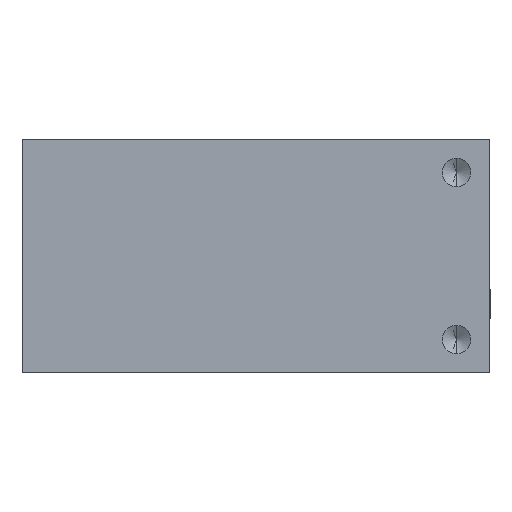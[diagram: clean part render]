
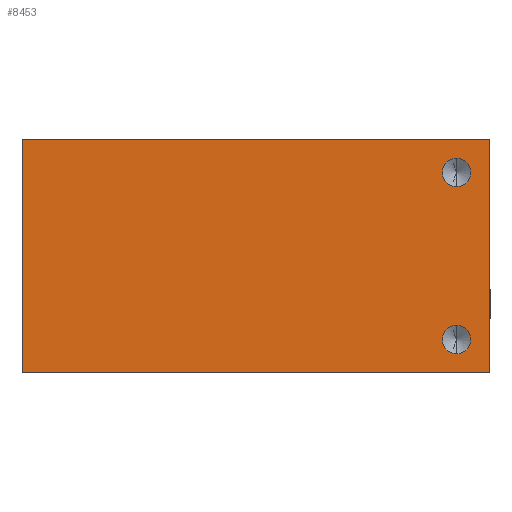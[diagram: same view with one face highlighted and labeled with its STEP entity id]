
A CAD part, front view. The second image highlights one B-rep face of the part: STEP entity #8453.
In plain terms, the highlighted planar face has unit normal (0, -1, 0).
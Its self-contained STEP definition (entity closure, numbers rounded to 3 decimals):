
#144 = CARTESIAN_POINT ( 'NONE',  ( 35., -65.5, 30.6 ) ) ;
#243 = VECTOR ( 'NONE', #16073, 1000. ) ;
#429 = LINE ( 'NONE', #13004, #11290 ) ;
#499 = VECTOR ( 'NONE', #23361, 1000. ) ;
#691 = EDGE_LOOP ( 'NONE', ( #8191, #28316 ) ) ;
#842 = CIRCLE ( 'NONE', #18498, 3.4 ) ;
#1506 = CARTESIAN_POINT ( 'NONE',  ( -69., -65.5, -14. ) ) ;
#1678 = CARTESIAN_POINT ( 'NONE',  ( 43., -65.5, 42. ) ) ;
#3309 = AXIS2_PLACEMENT_3D ( 'NONE', #4172, #14550, #14219 ) ;
#3394 = DIRECTION ( 'NONE',  ( 0., 0., 1. ) ) ;
#3615 = DIRECTION ( 'NONE',  ( 0., 0., -1. ) ) ;
#4172 = CARTESIAN_POINT ( 'NONE',  ( 35., -65.5, -6. ) ) ;
#5479 = DIRECTION ( 'NONE',  ( 0., 0., 1. ) ) ;
#5556 = DIRECTION ( 'NONE',  ( 0., 0., -1. ) ) ;
#6040 = LINE ( 'NONE', #1506, #243 ) ;
#6461 = ORIENTED_EDGE ( 'NONE', *, *, #7875, .F. ) ;
#6536 = DIRECTION ( 'NONE',  ( 0., -1., 0. ) ) ;
#6941 = AXIS2_PLACEMENT_3D ( 'NONE', #28669, #28501, #5556 ) ;
#7064 = VERTEX_POINT ( 'NONE', #21358 ) ;
#7301 = VERTEX_POINT ( 'NONE', #15953 ) ;
#7366 = VECTOR ( 'NONE', #19885, 1000. ) ;
#7626 = LINE ( 'NONE', #28545, #499 ) ;
#7875 = EDGE_CURVE ( 'NONE', #7064, #26393, #842, .T. ) ;
#8191 = ORIENTED_EDGE ( 'NONE', *, *, #16933, .F. ) ;
#8453 = ADVANCED_FACE ( 'NONE', ( #13610, #21646, #11423 ), #19469, .F. ) ;
#8627 = CARTESIAN_POINT ( 'NONE',  ( 35., -65.5, -2.6 ) ) ;
#8863 = EDGE_CURVE ( 'NONE', #25554, #7301, #6040, .T. ) ;
#8985 = VERTEX_POINT ( 'NONE', #1678 ) ;
#10159 = CARTESIAN_POINT ( 'NONE',  ( -69., -65.5, 42. ) ) ;
#11098 = DIRECTION ( 'NONE',  ( 0., 1., 0. ) ) ;
#11290 = VECTOR ( 'NONE', #5479, 1000. ) ;
#11409 = EDGE_CURVE ( 'NONE', #7301, #8985, #429, .T. ) ;
#11423 = FACE_BOUND ( 'NONE', #691, .T. ) ;
#12813 = EDGE_CURVE ( 'NONE', #24202, #25554, #7626, .T. ) ;
#13004 = CARTESIAN_POINT ( 'NONE',  ( 43., -65.5, -14. ) ) ;
#13610 = FACE_OUTER_BOUND ( 'NONE', #23503, .T. ) ;
#14113 = EDGE_LOOP ( 'NONE', ( #6461, #23164 ) ) ;
#14219 = DIRECTION ( 'NONE',  ( 0., 0., -1. ) ) ;
#14232 = DIRECTION ( 'NONE',  ( 0., 0., -1. ) ) ;
#14550 = DIRECTION ( 'NONE',  ( 0., -1., 0. ) ) ;
#14551 = CIRCLE ( 'NONE', #3309, 3.4 ) ;
#15084 = EDGE_CURVE ( 'NONE', #28611, #27480, #17071, .T. ) ;
#15543 = CARTESIAN_POINT ( 'NONE',  ( -69., -65.5, 42. ) ) ;
#15687 = EDGE_CURVE ( 'NONE', #24202, #8985, #25089, .T. ) ;
#15953 = CARTESIAN_POINT ( 'NONE',  ( 43., -65.5, -14. ) ) ;
#16073 = DIRECTION ( 'NONE',  ( 1., 0., 0. ) ) ;
#16499 = AXIS2_PLACEMENT_3D ( 'NONE', #20897, #26572, #3615 ) ;
#16676 = ORIENTED_EDGE ( 'NONE', *, *, #11409, .T. ) ;
#16933 = EDGE_CURVE ( 'NONE', #27480, #28611, #28287, .T. ) ;
#17071 = CIRCLE ( 'NONE', #6941, 3.4 ) ;
#17254 = CARTESIAN_POINT ( 'NONE',  ( 35., -65.5, 37.4 ) ) ;
#18498 = AXIS2_PLACEMENT_3D ( 'NONE', #32829, #6536, #14232 ) ;
#18812 = EDGE_CURVE ( 'NONE', #26393, #7064, #14551, .T. ) ;
#19469 = PLANE ( 'NONE',  #31098 ) ;
#19885 = DIRECTION ( 'NONE',  ( 1., 0., 0. ) ) ;
#20897 = CARTESIAN_POINT ( 'NONE',  ( 35., -65.5, 34. ) ) ;
#21358 = CARTESIAN_POINT ( 'NONE',  ( 35., -65.5, -9.4 ) ) ;
#21646 = FACE_BOUND ( 'NONE', #14113, .T. ) ;
#23016 = CARTESIAN_POINT ( 'NONE',  ( -69., -65.5, -14. ) ) ;
#23164 = ORIENTED_EDGE ( 'NONE', *, *, #18812, .F. ) ;
#23361 = DIRECTION ( 'NONE',  ( 0., 0., -1. ) ) ;
#23433 = ORIENTED_EDGE ( 'NONE', *, *, #8863, .T. ) ;
#23503 = EDGE_LOOP ( 'NONE', ( #16676, #27362, #26740, #23433 ) ) ;
#24202 = VERTEX_POINT ( 'NONE', #15543 ) ;
#25089 = LINE ( 'NONE', #10159, #7366 ) ;
#25554 = VERTEX_POINT ( 'NONE', #23016 ) ;
#26393 = VERTEX_POINT ( 'NONE', #8627 ) ;
#26572 = DIRECTION ( 'NONE',  ( 0., -1., 0. ) ) ;
#26740 = ORIENTED_EDGE ( 'NONE', *, *, #12813, .T. ) ;
#27362 = ORIENTED_EDGE ( 'NONE', *, *, #15687, .F. ) ;
#27480 = VERTEX_POINT ( 'NONE', #144 ) ;
#28287 = CIRCLE ( 'NONE', #16499, 3.4 ) ;
#28316 = ORIENTED_EDGE ( 'NONE', *, *, #15084, .F. ) ;
#28501 = DIRECTION ( 'NONE',  ( 0., -1., 0. ) ) ;
#28545 = CARTESIAN_POINT ( 'NONE',  ( -69., -65.5, 14. ) ) ;
#28611 = VERTEX_POINT ( 'NONE', #17254 ) ;
#28669 = CARTESIAN_POINT ( 'NONE',  ( 35., -65.5, 34. ) ) ;
#29683 = CARTESIAN_POINT ( 'NONE',  ( -69., -65.5, 14. ) ) ;
#31098 = AXIS2_PLACEMENT_3D ( 'NONE', #29683, #11098, #3394 ) ;
#32829 = CARTESIAN_POINT ( 'NONE',  ( 35., -65.5, -6. ) ) ;
